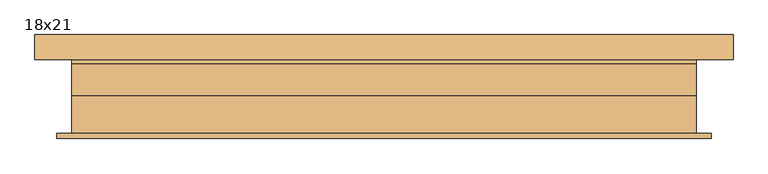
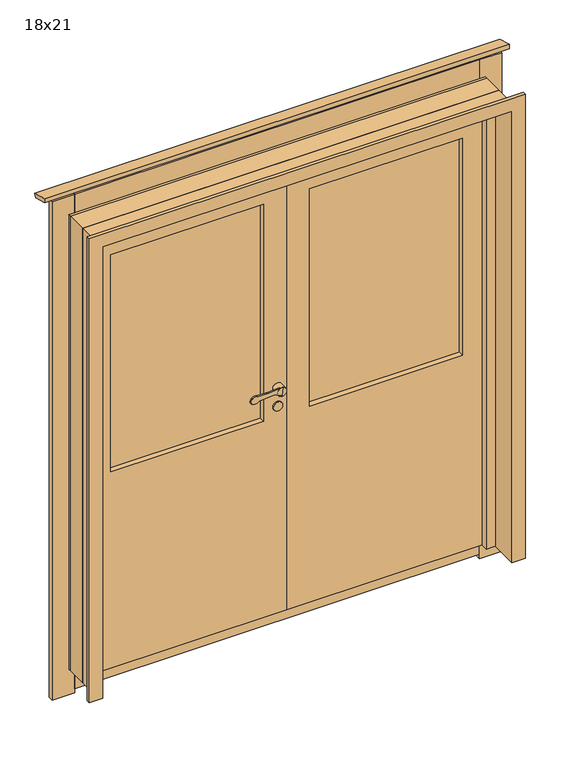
"""IFC4 building model written with IfcOpenShell, lengths in millimetres: door geometry, Eigen 1 med glas Dobbel : 18x21."""

from ifc_helpers import new_model, si_unit, point, frame, frame_2d, origin, place, context, project, spatial, polyline, circle_curve, trimmed, segment, composite_curve, outline, extrude, faceted_brep, source, transform, mapped, element, save
from ifc_brep_helpers import plane_surface, cylinder_surface, revolved_surface, advanced_brep


def door_18x21_50e2a548(model_context):
    return source(origin(), model_context, "Body", "SolidModel", [
        extrude(outline(composite_curve([segment(trimmed(circle_curve(frame_2d((965.0, -6.0)), 20.0), [point((965.0, 14.0))], [point((965.0, -26.0))], False, "CARTESIAN"), True, "CONTINUOUS"), segment(trimmed(circle_curve(frame_2d((965.0, -6.0)), 20.0), [point((965.0, -26.0))], [point((965.0, 14.0))], False, "CARTESIAN"), True, "CONTINUOUS")], self_intersect=False)), frame((0.0, 12.0, 0.0), z_axis=(0.0, 1.0, 0.0), x_axis=(0.0, 0.0, 1.0)), (0.0, 0.0, 1.0), 5.0),
        extrude(outline(composite_curve([segment(trimmed(circle_curve(frame_2d((1092.7619371, -66.69597)), 30.0000001), [point((1062.9128632, -63.6905097))], [point((1062.8329847, -68.7594173))], True, "CARTESIAN"), True, "CONTINUOUS"), segment(polyline([(1062.8329847, -68.7594173), (1065.9164674, -113.4833155)]), True, "CONTINUOUS"), segment(trimmed(circle_curve(frame_2d((1036.4559309, -119.1469534)), 30.0000001), [point((1065.9164674, -113.4833155))], [point((1063.5335945, -132.0620661))], False, "CARTESIAN"), True, "CONTINUOUS"), segment(trimmed(circle_curve(frame_2d((1054.5077066, -127.7570286)), 10.0), [point((1063.5335945, -132.0620661))], [point((1058.6149506, -136.874624))], False, "CARTESIAN"), True, "CONTINUOUS"), segment(polyline([(1058.6149506, -136.874624), (1050.5438812, -140.5104348)]), True, "CONTINUOUS"), segment(trimmed(circle_curve(frame_2d((1046.4366372, -131.3928393)), 10.0), [point((1050.5438812, -140.5104348))], [point((1037.3918831, -135.658097))], False, "CARTESIAN"), True, "CONTINUOUS"), segment(trimmed(circle_curve(frame_2d((1061.0052772, -124.5226687)), 26.1072815), [point((1037.3918831, -135.658097))], [point((1042.2785443, -106.3320221))], False, "CARTESIAN"), True, "CONTINUOUS"), segment(polyline([(1042.2785443, -106.3320221), (1048.6022345, -43.5275667)]), True, "CONTINUOUS"), segment(trimmed(circle_curve(frame_2d((1038.6525432, -42.5257466)), 10.0), [point((1048.6022345, -43.5275667))], [point((1047.7701387, -38.4185026))], True, "CARTESIAN"), True, "CONTINUOUS"), segment(polyline([(1047.7701387, -38.4185026), (1032.9010548, -5.4108965), (1069.0317715, -2.9198695), (1062.9128632, -63.6905097)]), True, "CONTINUOUS")], self_intersect=False)), frame((0.0, -18.0, 0.0), z_axis=(0.0, 1.0, 0.0), x_axis=(0.0, 0.0, 1.0)), (0.0, 0.0, 1.0), 7.1084716),
        extrude(outline(composite_curve([segment(trimmed(circle_curve(frame_2d((1050.0, -6.0)), 20.0), [point((1050.0, 14.0))], [point((1050.0, -26.0))], False, "CARTESIAN"), True, "CONTINUOUS"), segment(trimmed(circle_curve(frame_2d((1050.0, -6.0)), 20.0), [point((1050.0, -26.0))], [point((1050.0, 14.0))], False, "CARTESIAN"), True, "CONTINUOUS")], self_intersect=False)), frame((0.0, -18.0, 0.0), z_axis=(0.0, 1.0, 0.0), x_axis=(0.0, 0.0, 1.0)), (0.0, 0.0, 1.0), 35.0),
        advanced_brep(
        [(14.0, 112.0, 1050.0), (-23.995517, 112.0, 1041.2729519), (-38.4185026, 112.0, 1047.7701387), (-43.5275667, 112.0, 1048.6022345), (-106.3320221, 112.0, 1042.2785443), (-135.658097, 112.0, 1037.3918831), (-140.5104348, 112.0, 1050.5438812), (-136.874624, 112.0, 1058.6149506), (-132.0620661, 112.0, 1063.5335945), (-113.4833155, 112.0, 1065.9164674), (-68.7594173, 112.0, 1062.8329847), (-63.6905097, 112.0, 1062.9128632), (-15.1108537, 112.0, 1067.8042788), (14.0, 77.0, 1050.0), (-26.0, 77.0, 1050.0), (-26.0, 104.8915284, 1050.0), (-23.995517, 104.8915284, 1041.2729519), (-15.1108537, 104.8915284, 1067.8042788), (-63.6905097, 104.8915284, 1062.9128632), (-68.7594173, 104.8915284, 1062.8329847), (-113.4833155, 104.8915284, 1065.9164674), (-132.0620661, 104.8915284, 1063.5335945), (-136.874624, 104.8915284, 1058.6149506), (-140.5104348, 104.8915284, 1050.5438812), (-135.658097, 104.8915284, 1037.3918831), (-106.3320221, 104.8915284, 1042.2785443), (-43.5275667, 104.8915284, 1048.6022345), (-38.4185026, 104.8915284, 1047.7701387)],
        [
            (0, 1, circle_curve(frame((-6.0, 112.0, 1050.0), z_axis=(0.0, 1.0, 0.0), x_axis=(-1.0, 0.0, 0.0)), 20.0)),
            (1, 2),
            (2, 3, circle_curve(frame((-42.5257466, 112.0, 1038.6525432), z_axis=(0.0, -1.0, 0.0), x_axis=(-1.0, 0.0, 0.0)), 10.0)),
            (3, 4),
            (4, 5, circle_curve(frame((-124.5226687, 112.0, 1061.0052772), z_axis=(0.0, 1.0, 0.0), x_axis=(-1.0, 0.0, 0.0)), 26.1072815)),
            (5, 6, circle_curve(frame((-131.3928393, 112.0, 1046.4366372), z_axis=(0.0, 1.0, 0.0), x_axis=(-1.0, 0.0, 0.0)), 10.0)),
            (6, 7),
            (7, 8, circle_curve(frame((-127.7570286, 112.0, 1054.5077066), z_axis=(0.0, 1.0, 0.0), x_axis=(-1.0, 0.0, 0.0)), 10.0)),
            (8, 9, circle_curve(frame((-119.1469534, 112.0, 1036.4559309), z_axis=(0.0, 1.0, 0.0), x_axis=(-1.0, 0.0, 0.0)), 30.0000001)),
            (9, 10),
            (10, 11, circle_curve(frame((-66.69597, 112.0, 1092.7619371), z_axis=(0.0, -1.0, 0.0), x_axis=(-1.0, 0.0, 0.0)), 30.0000001)),
            (11, 12),
            (12, 0, circle_curve(frame((-6.0, 112.0, 1050.0), z_axis=(0.0, 1.0, 0.0), x_axis=(-1.0, 0.0, 0.0)), 20.0)),
            (13, 14, circle_curve(frame((-6.0, 77.0, 1050.0), z_axis=(0.0, -1.0, 0.0), x_axis=(-1.0, 0.0, 0.0)), 20.0)),
            (14, 13, circle_curve(frame((-6.0, 77.0, 1050.0), z_axis=(0.0, -1.0, 0.0), x_axis=(-1.0, 0.0, 0.0)), 20.0)),
            (14, 15),
            (15, 16, circle_curve(frame((-6.0, 104.8915284, 1050.0), z_axis=(0.0, -1.0, 0.0), x_axis=(-1.0, 0.0, 0.0)), 20.0)),
            (16, 1),
            (0, 13),
            (12, 17),
            (17, 15, circle_curve(frame((-6.0, 104.8915284, 1050.0), z_axis=(0.0, -1.0, 0.0), x_axis=(-1.0, 0.0, 0.0)), 20.0)),
            (18, 19, circle_curve(frame((-66.69597, 104.8915284, 1092.7619371), z_axis=(0.0, 1.0, 0.0), x_axis=(-1.0, 0.0, 0.0)), 30.0000001)),
            (19, 20),
            (20, 21, circle_curve(frame((-119.1469534, 104.8915284, 1036.4559309), z_axis=(0.0, -1.0, 0.0), x_axis=(-1.0, 0.0, 0.0)), 30.0000001)),
            (21, 22, circle_curve(frame((-127.7570286, 104.8915284, 1054.5077066), z_axis=(0.0, -1.0, 0.0), x_axis=(-1.0, 0.0, 0.0)), 10.0)),
            (22, 23),
            (23, 24, circle_curve(frame((-131.3928393, 104.8915284, 1046.4366372), z_axis=(0.0, -1.0, 0.0), x_axis=(-1.0, 0.0, 0.0)), 10.0)),
            (24, 25, circle_curve(frame((-124.5226687, 104.8915284, 1061.0052772), z_axis=(0.0, -1.0, 0.0), x_axis=(-1.0, 0.0, 0.0)), 26.1072815)),
            (25, 26),
            (26, 27, circle_curve(frame((-42.5257466, 104.8915284, 1038.6525432), z_axis=(0.0, 1.0, 0.0), x_axis=(-1.0, 0.0, 0.0)), 10.0)),
            (27, 16),
            (17, 18),
            (11, 18),
            (27, 2),
            (26, 3),
            (25, 4),
            (24, 5),
            (23, 6),
            (22, 7),
            (21, 8),
            (20, 9),
            (19, 10),
        ],
        [
            plane_surface(frame((-26.0, 112.0, 1050.0), z_axis=(0.0, 1.0, 0.0), x_axis=(0.0, 0.0, 1.0))),
            plane_surface(frame((-26.0, 77.0, 1050.0), z_axis=(0.0, -1.0, 0.0), x_axis=(0.0, 0.0, -1.0))),
            cylinder_surface(frame((-6.0, 77.0, 1050.0), z_axis=(0.0, 1.0, 0.0), x_axis=(-1.0, 0.0, 0.0)), 20.0),
            plane_surface(frame((-2.9198695, 104.8915284, 1069.0317715), z_axis=(0.0, -1.0, 0.0), x_axis=(-0.9949691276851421, 0.0, -0.10018200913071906))),
            plane_surface(frame((-63.6905097, 112.0, 1062.9128632), z_axis=(-0.10018200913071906, 0.0, 0.9949691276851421), x_axis=(0.0, -1.0, 0.0))),
            plane_surface(frame((-5.4108965, 112.0, 1032.9010548), z_axis=(-0.4107243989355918, 0.0, -0.9117595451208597), x_axis=(0.0, -1.0, 0.0))),
            revolved_surface(polyline([(-52.5257466, 104.8915284, 1038.6525432), (-52.5257466, 112.0, 1038.6525432)]), (-42.5257466, 104.8915284, 1038.6525432), (0.0, -1.0, 0.0)),
            plane_surface(frame((-43.5275667, 112.0, 1048.6022345), z_axis=(0.10018200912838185, 0.0, -0.9949691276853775), x_axis=(0.0, -1.0, 0.0))),
            cylinder_surface(frame((-124.5226687, 104.8915284, 1061.0052772), z_axis=(0.0, 1.0, 0.0), x_axis=(-1.0, 0.0, 0.0)), 26.1072815),
            cylinder_surface(frame((-131.3928393, 104.8915284, 1046.4366372), z_axis=(0.0, 1.0, 0.0), x_axis=(-1.0, 0.0, 0.0)), 10.0),
            plane_surface(frame((-140.5104348, 112.0, 1050.5438812), z_axis=(-0.9117595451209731, 0.0, 0.41072439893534), x_axis=(0.0, -1.0, 0.0))),
            cylinder_surface(frame((-127.7570286, 104.8915284, 1054.5077066), z_axis=(0.0, 1.0, 0.0), x_axis=(-1.0, 0.0, 0.0)), 10.0),
            cylinder_surface(frame((-119.1469534, 104.8915284, 1036.4559309), z_axis=(0.0, 1.0, 0.0), x_axis=(-1.0, 0.0, 0.0)), 30.0000001),
            plane_surface(frame((-113.4833155, 112.0, 1065.9164674), z_axis=(0.06878157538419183, 0.0, 0.9976317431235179), x_axis=(0.0, -1.0, 0.0))),
            revolved_surface(polyline([(-96.69597010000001, 104.8915284, 1092.7619371), (-96.69597010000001, 112.0, 1092.7619371)]), (-66.69597, 104.8915284, 1092.7619371), (0.0, -1.0, 0.0)),
        ],
        [
            (0, [[1, 2, 3, 4, 5, 6, 7, 8, 9, 10, 11, 12, 13]]),
            (1, [[14, 15]]),
            (2, [[-15, 16, 17, 18, -1, 19]]),
            (2, [[-14, -19, -13, 20, 21, -16]]),
            (3, [[22, 23, 24, 25, 26, 27, 28, 29, 30, 31, -17, -21, 32]]),
            (4, [[33, -32, -20, -12]]),
            (5, [[34, -2, -18, -31]]),
            (6, [[-3, -34, -30, 35]]),
            (7, [[-4, -35, -29, 36]]),
            (8, [[-5, -36, -28, 37]]),
            (9, [[-6, -37, -27, 38]]),
            (10, [[-7, -38, -26, 39]]),
            (11, [[-8, -39, -25, 40]]),
            (12, [[-9, -40, -24, 41]]),
            (13, [[-10, -41, -23, 42]]),
            (14, [[-11, -42, -22, -33]]),
        ],
    ),
        extrude(outline(composite_curve([segment(trimmed(circle_curve(frame_2d((965.0, -6.0)), 20.0), [point((965.0, 14.0))], [point((965.0, -26.0))], False, "CARTESIAN"), True, "CONTINUOUS"), segment(trimmed(circle_curve(frame_2d((965.0, -6.0)), 20.0), [point((965.0, -26.0))], [point((965.0, 14.0))], False, "CARTESIAN"), True, "CONTINUOUS")], self_intersect=False)), frame((0.0, 77.0, 0.0), z_axis=(0.0, 1.0, 0.0), x_axis=(0.0, 0.0, 1.0)), (0.0, 0.0, 1.0), 5.0),
        extrude(outline(polyline([(-836.0, 107.0), (-836.0, 129.0), (924.0, 129.0), (924.0, 107.0), (-836.0, 107.0)])), frame((0.0, 0.0, 2075.0), z_axis=(0.0, 0.0, 1.0), x_axis=(1.0, 0.0, 0.0)), (0.0, 0.0, 1.0), 98.0),
        extrude(outline(polyline([(179.444437, 2178.9885716), (174.5268751, 2160.6359809), (107.0, 2178.7297526), (107.0, 2198.4), (179.444437, 2178.9885716)])), frame((-967.0, 0.0, 0.0), z_axis=(1.0, 0.0, 0.0), x_axis=(0.0, 1.0, 0.0)), (0.0, 0.0, 1.0), 2022.0),
        extrude(outline(polyline([(1022.0, 107.0), (924.0, 107.0), (924.0, 129.0), (1022.0, 129.0), (1022.0, 107.0)])), frame((0.0, 0.0, -118.0), z_axis=(0.0, 0.0, 1.0), x_axis=(1.0, 0.0, 0.0)), (0.0, 0.0, 1.0), 2291.0),
        extrude(outline(polyline([(-836.0, 107.0), (-934.0, 107.0), (-934.0, 129.0), (-836.0, 129.0), (-836.0, 107.0)])), frame((0.0, 0.0, -118.0), z_axis=(0.0, 0.0, 1.0), x_axis=(1.0, 0.0, 0.0)), (0.0, 0.0, 1.0), 2291.0),
        extrude(outline(polyline([(-836.0, 107.0), (-836.0, 129.0), (924.0, 129.0), (924.0, 107.0), (-836.0, 107.0)])), frame((0.0, 0.0, -97.9948268), z_axis=(0.0, 0.0, 1.0), x_axis=(1.0, 0.0, 0.0)), (0.0, 0.0, 1.0), 97.9948268),
        faceted_brep([(949.0, 3.0, 0.0), (894.0, 3.0, 0.0), (894.0, 35.0, 0.0), (909.0, 35.0, 0.0), (909.0, 95.0, 0.0), (949.0, 95.0, 0.0), (949.0, 3.0, 2088.0), (-861.0, 3.0, 2088.0), (-861.0, 3.0, 0.0), (-806.0, 3.0, 0.0), (-806.0, 3.0, 2033.0), (894.0, 3.0, 2033.0), (894.0, 35.0, 2033.0), (-806.0, 35.0, 2033.0), (-806.0, 35.0, 0.0), (-821.0, 35.0, 0.0), (-821.0, 35.0, 2048.0), (909.0, 35.0, 2048.0), (909.0, 95.0, 2048.0), (-821.0, 95.0, 2048.0), (-821.0, 95.0, 0.0), (-861.0, 95.0, 0.0), (-861.0, 95.0, 2088.0), (949.0, 95.0, 2088.0)], [[[0, 1, 2, 3, 4, 5]], [[1, 0, 6, 7, 8, 9, 10, 11]], [[2, 1, 11, 12]], [[3, 2, 12, 13, 14, 15, 16, 17]], [[4, 3, 17, 18]], [[5, 4, 18, 19, 20, 21, 22, 23]], [[0, 5, 23, 6]], [[7, 22, 21, 8]], [[8, 21, 20, 15, 14, 9]], [[13, 10, 9, 14]], [[19, 16, 15, 20]], [[12, 11, 10, 13]], [[18, 17, 16, 19]], [[6, 23, 22, 7]]]),
        extrude(outline(polyline([(0.0, 924.0), (0.0, 949.0), (2088.0, 949.0), (2088.0, -861.0), (0.0, -861.0), (0.0, -836.0), (2063.0, -836.0), (2063.0, 924.0), (0.0, 924.0)])), frame((0.0, 95.0, 0.0), z_axis=(0.0, 1.0, 0.0), x_axis=(0.0, 0.0, 1.0)), (0.0, 0.0, 1.0), 12.0),
        faceted_brep([(-861.0, -107.0, 0.0), (-861.0, 3.0, 0.0), (-846.0, 3.0, 0.0), (-846.0, -122.0, 0.0), (-904.0, -122.0, 0.0), (-904.0, -107.0, 0.0), (-861.0, -107.0, 2088.0), (-861.0, 3.0, 2088.0), (949.0, 3.0, 2088.0), (949.0, 3.0, 0.0), (934.0, 3.0, 0.0), (934.0, 3.0, 2073.0), (-846.0, 3.0, 2073.0), (-846.0, -122.0, 2073.0), (934.0, -122.0, 2073.0), (934.0, -122.0, 0.0), (992.0, -122.0, 0.0), (992.0, -122.0, 2131.0), (-904.0, -122.0, 2131.0), (-904.0, -107.0, 2131.0), (992.0, -107.0, 2131.0), (992.0, -107.0, 0.0), (949.0, -107.0, 0.0), (949.0, -107.0, 2088.0)], [[[0, 1, 2, 3, 4, 5]], [[1, 0, 6, 7]], [[2, 1, 7, 8, 9, 10, 11, 12]], [[3, 2, 12, 13]], [[4, 3, 13, 14, 15, 16, 17, 18]], [[5, 4, 18, 19]], [[0, 5, 19, 20, 21, 22, 23, 6]], [[8, 23, 22, 9]], [[22, 21, 16, 15, 10, 9]], [[14, 11, 10, 15]], [[20, 17, 16, 21]], [[7, 6, 23, 8]], [[13, 12, 11, 14]], [[19, 18, 17, 20]]]),
        extrude(outline(polyline([(-56.0, 60.0), (-721.0, 60.0), (-721.0, 70.0), (-56.0, 70.0), (-56.0, 60.0)])), frame((0.0, 0.0, 900.0), z_axis=(0.0, 0.0, 1.0), x_axis=(1.0, 0.0, 0.0)), (0.0, 0.0, 1.0), 998.0),
        extrude(outline(polyline([(0.0, 44.0), (2048.0, 44.0), (2048.0, -821.0), (0.0, -821.0), (0.0, 44.0)]), holes=[polyline([(900.0, -721.0), (1898.0, -721.0), (1898.0, -56.0), (900.0, -56.0), (900.0, -721.0)])]), frame((0.0, 35.0, 0.0), z_axis=(0.0, 1.0, 0.0), x_axis=(0.0, 0.0, 1.0)), (0.0, 0.0, 1.0), 60.0),
        extrude(outline(polyline([(809.0, 60.0), (144.0, 60.0), (144.0, 70.0), (809.0, 70.0), (809.0, 60.0)])), frame((0.0, 0.0, 900.0), z_axis=(0.0, 0.0, 1.0), x_axis=(1.0, 0.0, 0.0)), (0.0, 0.0, 1.0), 998.0),
        extrude(outline(polyline([(0.0, 44.0), (0.0, 909.0), (2048.0, 909.0), (2048.0, 44.0), (0.0, 44.0)]), holes=[polyline([(900.0, 809.0), (900.0, 144.0), (1898.0, 144.0), (1898.0, 809.0), (900.0, 809.0)])]), frame((0.0, 35.0, 0.0), z_axis=(0.0, 1.0, 0.0), x_axis=(0.0, 0.0, 1.0)), (0.0, 0.0, 1.0), 60.0),
    ])


if __name__ == "__main__":
    model = new_model("IFC4")
    model_context = context("Model", 3, world=origin())
    ifc_project = project(units=[si_unit("LENGTHUNIT", "METRE", prefix="MILLI")], contexts=[model_context])
    site = spatial("IfcSite", under=ifc_project)
    building = spatial("IfcBuilding", under=site)
    placement = place(None, origin())
    door_18x21_shape = door_18x21_50e2a548(model_context)
    element("IfcDoor", 1, ObjectType="Eigen 1 med glas Dobbel : 18x21", at=placement, inside=building, context=model_context, shape_type="MappedRepresentation", body=[
        mapped(door_18x21_shape, transform((0.0, 0.0, 0.0), x_axis=(1.0, 0.0, 0.0), y_axis=(0.0, 1.0, 0.0), z_axis=(0.0, 0.0, 1.0))),
    ])
    save(model, "model.ifc")
